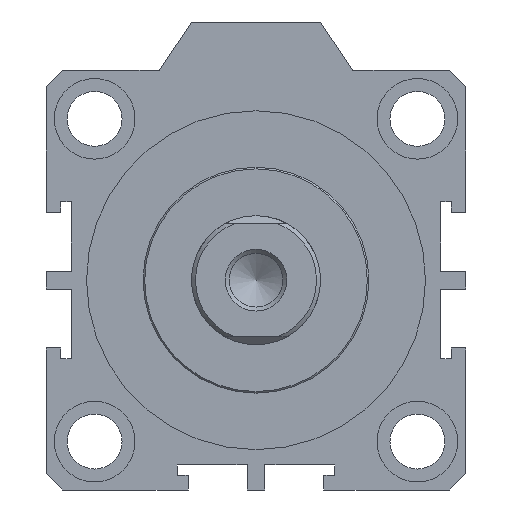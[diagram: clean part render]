
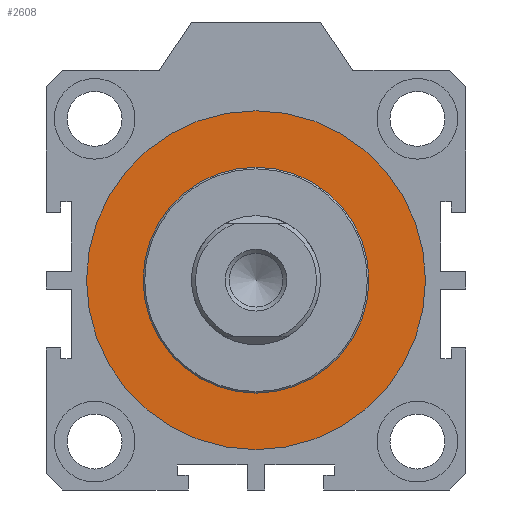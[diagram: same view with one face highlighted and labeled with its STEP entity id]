
A CAD part, front view. The second image highlights one B-rep face of the part: STEP entity #2608.
In plain terms, the highlighted planar face has unit normal (0, -1, 0).
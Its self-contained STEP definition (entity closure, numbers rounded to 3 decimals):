
#778=ORIENTED_EDGE('',*,*,#1036,.T.);
#779=ORIENTED_EDGE('',*,*,#1038,.T.);
#1036=EDGE_CURVE('',#1214,#1214,#1291,.T.);
#1038=EDGE_CURVE('',#1216,#1216,#1293,.F.);
#1214=VERTEX_POINT('',#3813);
#1216=VERTEX_POINT('',#3819);
#1291=CIRCLE('',#2793,21.);
#1293=CIRCLE('',#2797,14.);
#1459=EDGE_LOOP('',(#778));
#1460=EDGE_LOOP('',(#779));
#1645=FACE_BOUND('',#1459,.T.);
#1646=FACE_BOUND('',#1460,.T.);
#1751=PLANE('',#2796);
#2608=ADVANCED_FACE('',(#1645,#1646),#1751,.T.);
#2793=AXIS2_PLACEMENT_3D('',#3812,#3273,#3274);
#2796=AXIS2_PLACEMENT_3D('',#3817,#3279,#3280);
#2797=AXIS2_PLACEMENT_3D('',#3818,#3281,#3282);
#3273=DIRECTION('',(0.,-1.,0.));
#3274=DIRECTION('',(0.,0.,-1.));
#3279=DIRECTION('',(0.,-1.,0.));
#3280=DIRECTION('',(0.,0.,-1.));
#3281=DIRECTION('',(0.,-1.,0.));
#3282=DIRECTION('',(0.,0.,-1.));
#3812=CARTESIAN_POINT('',(0.,-2.5,0.));
#3813=CARTESIAN_POINT('',(0.,-2.5,-21.));
#3817=CARTESIAN_POINT('',(0.,-2.5,0.));
#3818=CARTESIAN_POINT('',(0.,-2.5,0.));
#3819=CARTESIAN_POINT('',(0.,-2.5,-14.));
